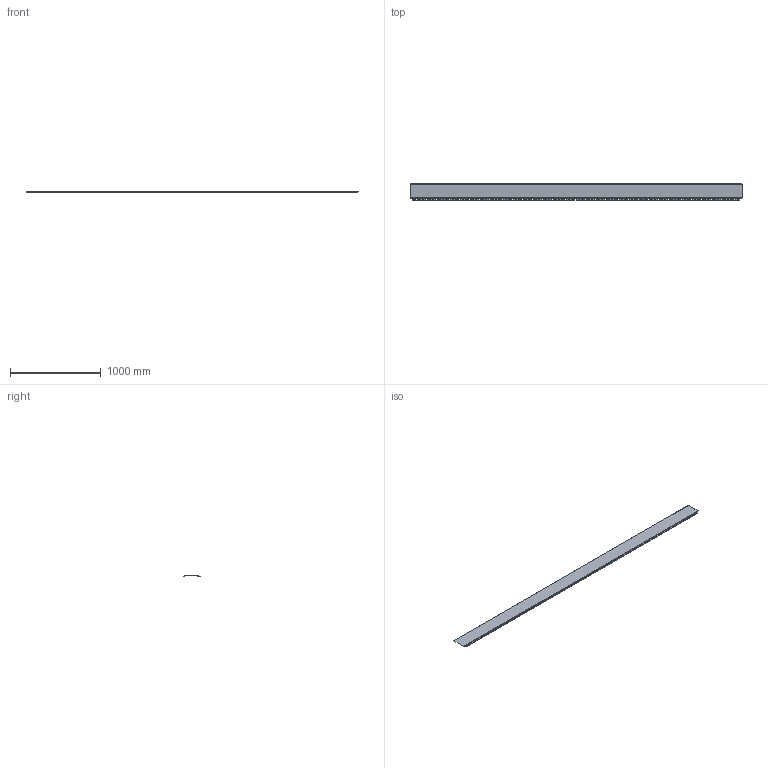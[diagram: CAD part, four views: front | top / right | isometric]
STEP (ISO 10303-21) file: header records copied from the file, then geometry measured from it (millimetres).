
FILE_DESCRIPTION(/* description */ (''),/* implementation_level */ '2;1');
FILE_NAME(/* name */ 'C:\Users\Utilisateur\Mac Metal\Site de communication - Documents\Ingénierie\Développement de produits\Harrywood+\Dessins\Profilé\HARRYWOOD +.stp',/* time_stamp */ '2022-06-28T15:30:32-04:00',/* author */ ('Utilisateur'),/* organization */ (''),/* preprocessor_version */ 'ST-DEVELOPER v18.1',/* originating_system */ 'Autodesk Inventor 2021',/* authorisation */ '');
FILE_SCHEMA (('AUTOMOTIVE_DESIGN { 1 0 10303 214 3 1 1 }'));
Length unit declared in the file: inch
Products named in the file (1): Profilé_HW+
Bounding box: 3657.6 x 179.18 x 7.24 mm (x, y, z)
Volume: 378307.3 mm3; surface area: 1489781.1 mm2
Topology: 1 solids, 1 shells, 432 faces, 1286 edges, 856 vertices
Faces by surface type: plane 224, cylinder 208
Entity records: 15033 total; most frequent: CARTESIAN_POINT 2575, ORIENTED_EDGE 2572, DIRECTION 2568, EDGE_CURVE 1286, LINE 870, VECTOR 870, VERTEX_POINT 856, AXIS2_PLACEMENT_3D 849
